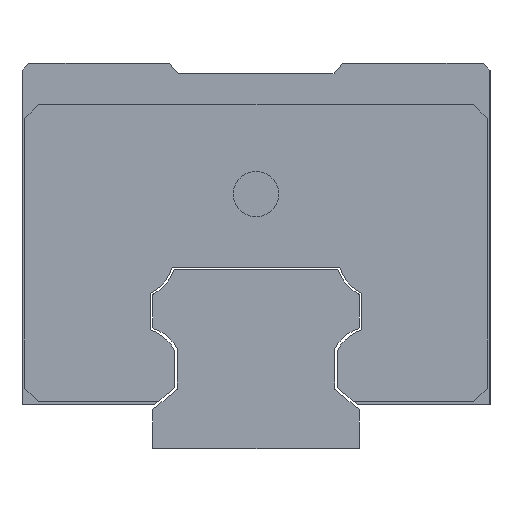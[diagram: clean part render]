
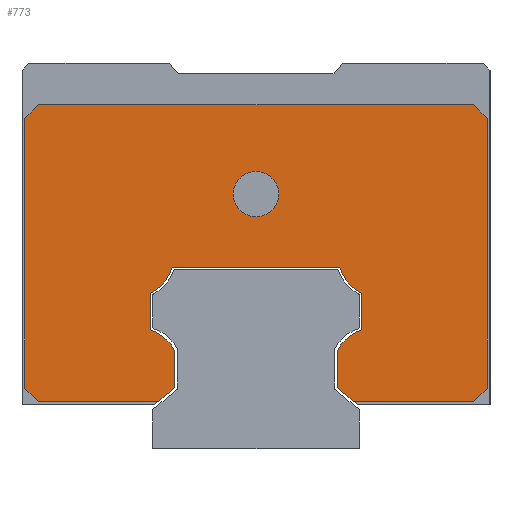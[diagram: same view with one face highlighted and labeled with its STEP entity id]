
A CAD part, left-side view. The second image highlights one B-rep face of the part: STEP entity #773.
In plain terms, the highlighted planar face has unit normal (-1, 0, 0).
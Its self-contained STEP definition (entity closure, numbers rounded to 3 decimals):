
#588=FACE_BOUND('',#1059,.T.);
#589=FACE_BOUND('',#1060,.T.);
#773=ADVANCED_FACE('',(#588,#589),#899,.F.);
#899=PLANE('',#2773);
#1059=EDGE_LOOP('',(#1426));
#1060=EDGE_LOOP('',(#1427,#1428,#1429,#1430,#1431,#1432,#1433,#1434,#1435,
#1436,#1437,#1438,#1439,#1440,#1441,#1442,#1443,#1444,#1445,#1446));
#1240=CIRCLE('',#2757,2.978);
#1241=CIRCLE('',#2760,2.978);
#1242=CIRCLE('',#2763,2.978);
#1243=CIRCLE('',#2766,2.978);
#1244=CIRCLE('',#2772,1.65);
#1426=ORIENTED_EDGE('',*,*,#2175,.F.);
#1427=ORIENTED_EDGE('',*,*,#2173,.F.);
#1428=ORIENTED_EDGE('',*,*,#2176,.T.);
#1429=ORIENTED_EDGE('',*,*,#2168,.F.);
#1430=ORIENTED_EDGE('',*,*,#2167,.F.);
#1431=ORIENTED_EDGE('',*,*,#2160,.F.);
#1432=ORIENTED_EDGE('',*,*,#2154,.F.);
#1433=ORIENTED_EDGE('',*,*,#2153,.F.);
#1434=ORIENTED_EDGE('',*,*,#2145,.F.);
#1435=ORIENTED_EDGE('',*,*,#2144,.F.);
#1436=ORIENTED_EDGE('',*,*,#2136,.F.);
#1437=ORIENTED_EDGE('',*,*,#2135,.F.);
#1438=ORIENTED_EDGE('',*,*,#2127,.F.);
#1439=ORIENTED_EDGE('',*,*,#2125,.F.);
#1440=ORIENTED_EDGE('',*,*,#2120,.F.);
#1441=ORIENTED_EDGE('',*,*,#2112,.F.);
#1442=ORIENTED_EDGE('',*,*,#2177,.T.);
#1443=ORIENTED_EDGE('',*,*,#2108,.F.);
#1444=ORIENTED_EDGE('',*,*,#2178,.T.);
#1445=ORIENTED_EDGE('',*,*,#2104,.F.);
#1446=ORIENTED_EDGE('',*,*,#2179,.T.);
#1900=VERTEX_POINT('',#3629);
#1901=VERTEX_POINT('',#3631);
#1904=VERTEX_POINT('',#3638);
#1905=VERTEX_POINT('',#3640);
#1908=VERTEX_POINT('',#3647);
#1909=VERTEX_POINT('',#3649);
#1910=VERTEX_POINT('',#3653);
#1916=VERTEX_POINT('',#3667);
#1921=VERTEX_POINT('',#3679);
#1922=VERTEX_POINT('',#3683);
#1927=VERTEX_POINT('',#3696);
#1928=VERTEX_POINT('',#3700);
#1933=VERTEX_POINT('',#3713);
#1934=VERTEX_POINT('',#3717);
#1939=VERTEX_POINT('',#3730);
#1940=VERTEX_POINT('',#3734);
#1944=VERTEX_POINT('',#3744);
#1950=VERTEX_POINT('',#3758);
#1954=VERTEX_POINT('',#3767);
#1955=VERTEX_POINT('',#3769);
#1956=VERTEX_POINT('',#3773);
#2104=EDGE_CURVE('',#1900,#1901,#2381,.T.);
#2108=EDGE_CURVE('',#1904,#1905,#2385,.T.);
#2112=EDGE_CURVE('',#1908,#1909,#2389,.T.);
#2120=EDGE_CURVE('',#1909,#1910,#2397,.T.);
#2125=EDGE_CURVE('',#1910,#1916,#2402,.T.);
#2127=EDGE_CURVE('',#1916,#1921,#1240,.T.);
#2135=EDGE_CURVE('',#1921,#1922,#2410,.T.);
#2136=EDGE_CURVE('',#1922,#1927,#1241,.T.);
#2144=EDGE_CURVE('',#1927,#1928,#2418,.T.);
#2145=EDGE_CURVE('',#1928,#1933,#1242,.T.);
#2153=EDGE_CURVE('',#1933,#1934,#2426,.T.);
#2154=EDGE_CURVE('',#1934,#1939,#1243,.T.);
#2160=EDGE_CURVE('',#1939,#1940,#2432,.T.);
#2167=EDGE_CURVE('',#1940,#1944,#2439,.T.);
#2168=EDGE_CURVE('',#1944,#1950,#2440,.T.);
#2173=EDGE_CURVE('',#1954,#1955,#2445,.T.);
#2175=EDGE_CURVE('',#1956,#1956,#1244,.T.);
#2176=EDGE_CURVE('',#1954,#1950,#2447,.T.);
#2177=EDGE_CURVE('',#1908,#1905,#2448,.T.);
#2178=EDGE_CURVE('',#1904,#1901,#2449,.T.);
#2179=EDGE_CURVE('',#1900,#1955,#2450,.T.);
#2381=LINE('',#3630,#2565);
#2385=LINE('',#3639,#2569);
#2389=LINE('',#3648,#2573);
#2397=LINE('',#3664,#2581);
#2402=LINE('',#3674,#2586);
#2410=LINE('',#3693,#2594);
#2418=LINE('',#3710,#2602);
#2426=LINE('',#3727,#2610);
#2432=LINE('',#3741,#2616);
#2439=LINE('',#3755,#2623);
#2440=LINE('',#3757,#2624);
#2445=LINE('',#3768,#2629);
#2447=LINE('',#3774,#2631);
#2448=LINE('',#3775,#2632);
#2449=LINE('',#3776,#2633);
#2450=LINE('',#3777,#2634);
#2565=VECTOR('',#2990,1.);
#2569=VECTOR('',#2996,1.);
#2573=VECTOR('',#3002,1.);
#2581=VECTOR('',#3012,1.);
#2586=VECTOR('',#3019,1.);
#2594=VECTOR('',#3035,1.);
#2602=VECTOR('',#3049,1.);
#2610=VECTOR('',#3063,1.);
#2616=VECTOR('',#3075,1.);
#2623=VECTOR('',#3084,1.);
#2624=VECTOR('',#3087,1.);
#2629=VECTOR('',#3094,1.);
#2631=VECTOR('',#3100,1.);
#2632=VECTOR('',#3101,1.);
#2633=VECTOR('',#3102,1.);
#2634=VECTOR('',#3103,1.);
#2757=AXIS2_PLACEMENT_3D('',#3678,#3024,#3025);
#2760=AXIS2_PLACEMENT_3D('',#3695,#3038,#3039);
#2763=AXIS2_PLACEMENT_3D('',#3712,#3052,#3053);
#2766=AXIS2_PLACEMENT_3D('',#3729,#3066,#3067);
#2772=AXIS2_PLACEMENT_3D('',#3772,#3098,#3099);
#2773=AXIS2_PLACEMENT_3D('',#3778,#3104,#3105);
#2990=DIRECTION('',(0.,-1.,0.));
#2996=DIRECTION('',(0.,0.,-1.));
#3002=DIRECTION('',(0.,1.,0.));
#3012=DIRECTION('',(0.,0.766,0.643));
#3019=DIRECTION('',(0.,0.,1.));
#3024=DIRECTION('',(1.,0.,0.));
#3025=DIRECTION('',(0.,1.,0.));
#3035=DIRECTION('',(0.,0.,1.));
#3038=DIRECTION('',(1.,0.,0.));
#3039=DIRECTION('',(0.,1.,0.));
#3049=DIRECTION('',(0.,1.,0.));
#3052=DIRECTION('',(1.,0.,0.));
#3053=DIRECTION('',(0.,-1.,0.));
#3063=DIRECTION('',(0.,0.,-1.));
#3066=DIRECTION('',(1.,0.,0.));
#3067=DIRECTION('',(0.,-1.,0.));
#3075=DIRECTION('',(0.,0.,-1.));
#3084=DIRECTION('',(0.,0.766,-0.643));
#3087=DIRECTION('',(0.,1.,0.));
#3094=DIRECTION('',(0.,0.,1.));
#3098=DIRECTION('',(-1.,0.,0.));
#3099=DIRECTION('',(0.,1.,0.));
#3100=DIRECTION('',(0.,-0.707,-0.707));
#3101=DIRECTION('',(0.,-0.707,0.707));
#3102=DIRECTION('',(0.,0.707,0.707));
#3103=DIRECTION('',(0.,0.707,-0.707));
#3104=DIRECTION('',(1.,0.,0.));
#3105=DIRECTION('',(0.,0.,-1.));
#3629=CARTESIAN_POINT('',(-28.45,15.8,25.));
#3630=CARTESIAN_POINT('',(-28.45,16.8,25.));
#3631=CARTESIAN_POINT('',(-28.45,-15.8,25.));
#3638=CARTESIAN_POINT('',(-28.45,-16.8,24.));
#3639=CARTESIAN_POINT('',(-28.45,-16.8,25.));
#3640=CARTESIAN_POINT('',(-28.45,-16.8,4.4));
#3647=CARTESIAN_POINT('',(-28.45,-15.8,3.4));
#3648=CARTESIAN_POINT('',(-28.45,-16.8,3.4));
#3649=CARTESIAN_POINT('',(-28.45,-7.136,3.4));
#3653=CARTESIAN_POINT('',(-28.45,-5.912,4.427));
#3664=CARTESIAN_POINT('',(-28.45,-7.136,3.4));
#3667=CARTESIAN_POINT('',(-28.45,-5.912,7.129));
#3674=CARTESIAN_POINT('',(-28.45,-5.912,4.427));
#3678=CARTESIAN_POINT('',(-28.45,-8.567,5.78));
#3679=CARTESIAN_POINT('',(-28.45,-7.7,8.629));
#3683=CARTESIAN_POINT('',(-28.45,-7.7,11.285));
#3693=CARTESIAN_POINT('',(-28.45,-7.7,8.629));
#3695=CARTESIAN_POINT('',(-28.45,-8.967,13.98));
#3696=CARTESIAN_POINT('',(-28.45,-6.093,13.2));
#3700=CARTESIAN_POINT('',(-28.45,6.093,13.2));
#3710=CARTESIAN_POINT('',(-28.45,-6.093,13.2));
#3712=CARTESIAN_POINT('',(-28.45,8.967,13.98));
#3713=CARTESIAN_POINT('',(-28.45,7.7,11.285));
#3717=CARTESIAN_POINT('',(-28.45,7.7,8.629));
#3727=CARTESIAN_POINT('',(-28.45,7.7,11.285));
#3729=CARTESIAN_POINT('',(-28.45,8.567,5.78));
#3730=CARTESIAN_POINT('',(-28.45,5.912,7.129));
#3734=CARTESIAN_POINT('',(-28.45,5.912,4.427));
#3741=CARTESIAN_POINT('',(-28.45,5.912,7.129));
#3744=CARTESIAN_POINT('',(-28.45,7.136,3.4));
#3755=CARTESIAN_POINT('',(-28.45,5.912,4.427));
#3757=CARTESIAN_POINT('',(-28.45,7.136,3.4));
#3758=CARTESIAN_POINT('',(-28.45,15.8,3.4));
#3767=CARTESIAN_POINT('',(-28.45,16.8,4.4));
#3768=CARTESIAN_POINT('',(-28.45,16.8,3.4));
#3769=CARTESIAN_POINT('',(-28.45,16.8,24.));
#3772=CARTESIAN_POINT('',(-28.45,0.,18.5));
#3773=CARTESIAN_POINT('',(-28.45,1.65,18.5));
#3774=CARTESIAN_POINT('',(-28.45,15.8,3.4));
#3775=CARTESIAN_POINT('',(-28.45,-16.8,4.4));
#3776=CARTESIAN_POINT('',(-28.45,-15.8,25.));
#3777=CARTESIAN_POINT('',(-28.45,16.8,24.));
#3778=CARTESIAN_POINT('',(-28.45,-8.567,5.78));
